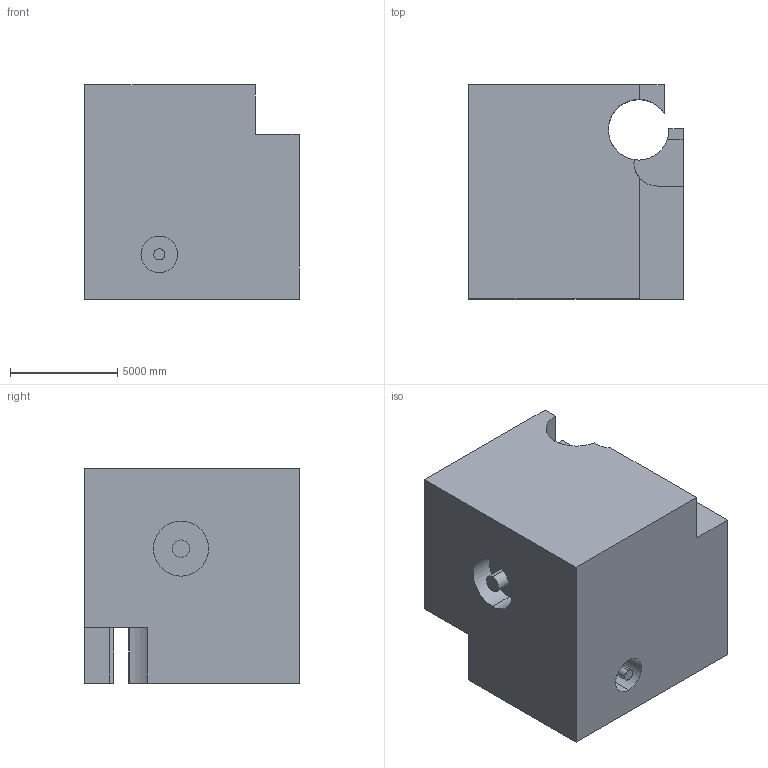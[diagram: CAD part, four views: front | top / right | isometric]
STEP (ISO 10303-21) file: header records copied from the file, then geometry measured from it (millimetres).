
FILE_DESCRIPTION (( 'STEP AP203' ), '1' );
FILE_NAME ('168.STEP', '2022-09-06T13:30:36', ( 'user' ), ( '' ), 'SwSTEP 2.0', 'SolidWorks 2021', '' );
FILE_SCHEMA (( 'CONFIG_CONTROL_DESIGN' ));
Length unit declared in the file: centimetre
Products named in the file (1): 168
Bounding box: 10000 x 10000 x 10000 mm (x, y, z)
Volume: 817150030865.4 mm3; surface area: 646653430.3 mm2
Topology: 1 solids, 1 shells, 36 faces, 90 edges, 60 vertices
Faces by surface type: plane 24, cylinder 12
Entity records: 1161 total; most frequent: DIRECTION 194, CARTESIAN_POINT 187, ORIENTED_EDGE 180, EDGE_CURVE 90, AXIS2_PLACEMENT_3D 67, VECTOR 60, VERTEX_POINT 60, LINE 60
